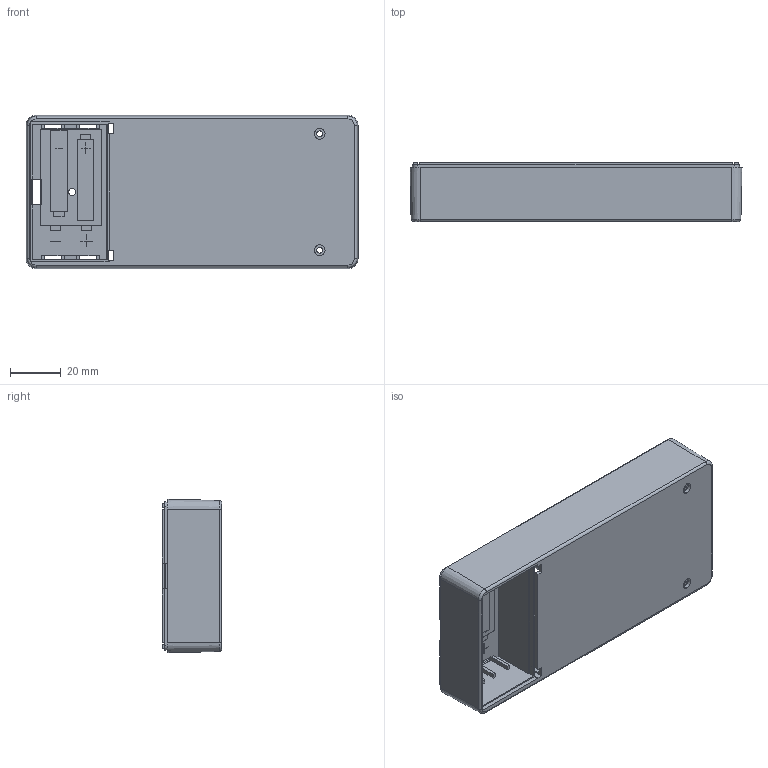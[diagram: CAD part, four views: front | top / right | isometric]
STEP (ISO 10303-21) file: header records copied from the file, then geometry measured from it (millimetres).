
FILE_DESCRIPTION (( 'STEP AP214' ), '1' );
FILE_NAME ('Cos PP5.STEP', '2016-12-28T20:58:17', ( 'aaa' ), ( '' ), 'SwSTEP 2.0', 'SolidWorks 2013', '' );
FILE_SCHEMA (( 'AUTOMOTIVE_DESIGN' ));
Length unit declared in the file: millimetre
Products named in the file (1): Cos PP5
Bounding box: 130.95 x 23.4 x 60.5 mm (x, y, z)
Volume: 37873.3 mm3; surface area: 35382.4 mm2
Topology: 3 solids, 3 shells, 265 faces, 740 edges, 484 vertices
Faces by surface type: plane 221, cylinder 30, cone 6, bspline 4, torus 4
Entity records: 8577 total; most frequent: CARTESIAN_POINT 1648, ORIENTED_EDGE 1476, DIRECTION 1323, EDGE_CURVE 738, LINE 649, VECTOR 649, VERTEX_POINT 484, AXIS2_PLACEMENT_3D 337
